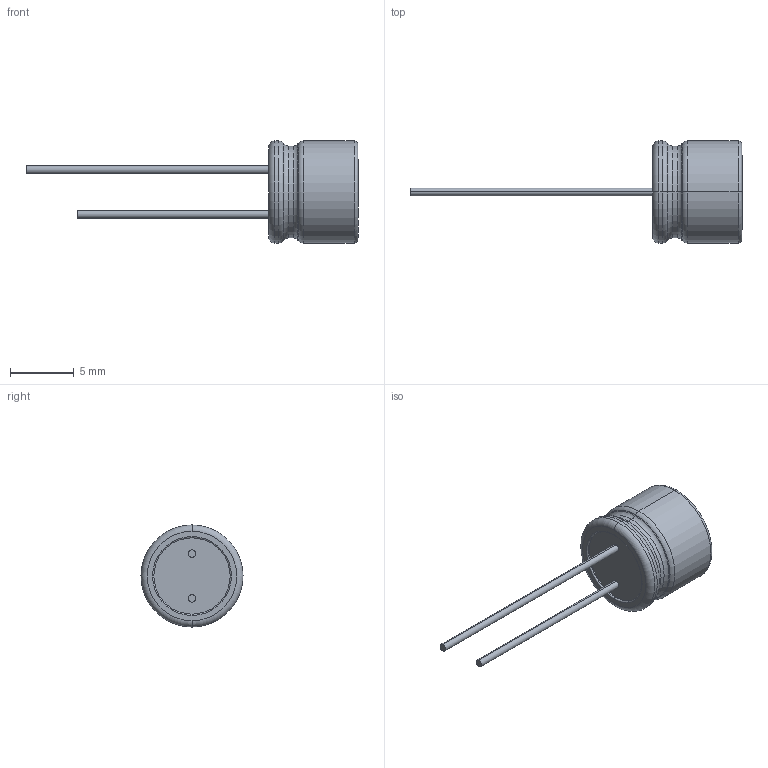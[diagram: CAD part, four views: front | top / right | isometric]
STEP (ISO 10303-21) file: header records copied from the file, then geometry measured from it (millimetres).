
FILE_DESCRIPTION((''),'2;1');
FILE_NAME('POLYMER-RADIAL8X7','2020-06-03T',('xy'),(''),'PRO/ENGINEER BY PARAMETRIC TECHNOLOGY CORPORATION, 2009380','PRO/ENGINEER BY PARAMETRIC TECHNOLOGY CORPORATION, 2009380','');
FILE_SCHEMA(('CONFIG_CONTROL_DESIGN'));
Length unit declared in the file: millimetre
Products named in the file (1): POLYMER-RADIAL8X7
Bounding box: 26 x 8 x 8 mm (x, y, z)
Volume: 343.1 mm3; surface area: 339.2 mm2
Topology: 1 solids, 1 shells, 419 faces, 1154 edges, 762 vertices
Faces by surface type: plane 387, torus 15, cylinder 13, cone 4
Entity records: 13110 total; most frequent: CARTESIAN_POINT 2345, ORIENTED_EDGE 2308, DIRECTION 2044, EDGE_CURVE 1154, VECTOR 1098, LINE 1098, VERTEX_POINT 762, AXIS2_PLACEMENT_3D 473
